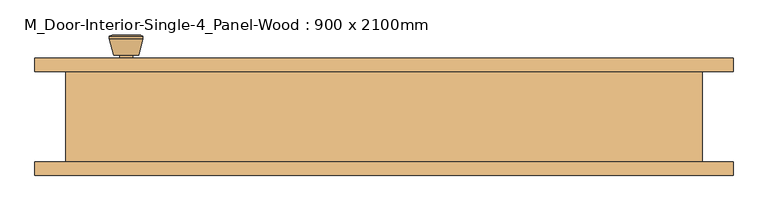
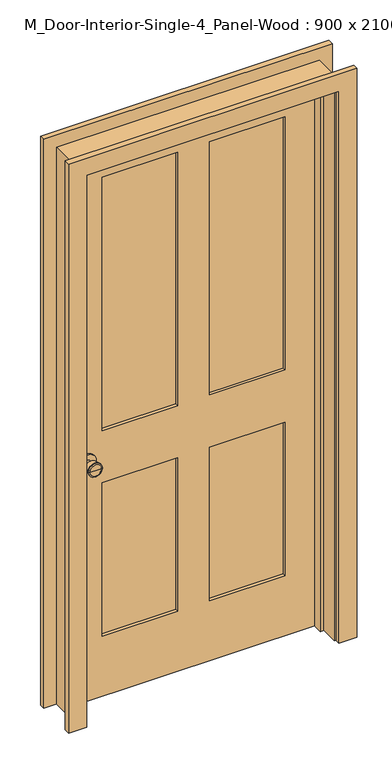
"""IFC4 building model written with IfcOpenShell, lengths in millimetres: door geometry, M_Door-Interior-Single-4_Panel-Wood : 900 x 2100mm."""

from ifc_helpers import new_model, si_unit, point, frame, frame_2d, origin, place, context, project, spatial, polyline, circle_curve, trimmed, segment, composite_curve, outline, extrude, faceted_brep, source, transform, mapped, element, save
from ifc_brep_helpers import plane_surface, cylinder_surface, revolved_surface, advanced_brep


def m_door_interior_single_4_panel_wood_900_x_2100mm_40914eee(model_context):
    return source(origin(), model_context, "Body", "SolidModel", [
        advanced_brep(
        [(-385.0, 23.575, 914.4), (-375.0, 23.575, 914.4), (-395.0, 23.575, 914.4), (-364.5241324, -25.425, 914.4), (-385.0, -25.425, 914.4), (-405.4758676, -25.425, 914.4), (-360.0, -23.5971319, 914.4), (-410.0, -23.5971319, 914.4), (-360.0, -20.1334537, 914.4), (-410.0, -20.1334537, 914.4), (-366.363764, 4.575, 914.4), (-403.636236, 4.575, 914.4), (-375.0, 4.575, 914.4), (-395.0, 4.575, 914.4)],
        [
            (0, 1),
            (1, 2, circle_curve(frame((-385.0, 23.575, 914.4), z_axis=(0.0, 1.0, 0.0), x_axis=(-1.0, 0.0, 0.0)), 10.0)),
            (2, 0),
            (2, 1, circle_curve(frame((-385.0, 23.575, 914.4), z_axis=(0.0, 1.0, 0.0), x_axis=(-1.0, 0.0, 0.0)), 10.0)),
            (3, 4),
            (4, 5),
            (5, 3, circle_curve(frame((-385.0, -25.425, 914.4), z_axis=(0.0, -1.0, 0.0), x_axis=(-1.0, 0.0, 0.0)), 20.4758676)),
            (3, 5, circle_curve(frame((-385.0, -25.425, 914.4), z_axis=(0.0, -1.0, 0.0), x_axis=(-1.0, 0.0, 0.0)), 20.4758676)),
            (6, 3),
            (5, 7),
            (7, 6, circle_curve(frame((-385.0, -23.5971319, 914.4), z_axis=(0.0, -1.0, 0.0), x_axis=(-1.0, 0.0, 0.0)), 25.0)),
            (6, 7, circle_curve(frame((-385.0, -23.5971319, 914.4), z_axis=(0.0, -1.0, 0.0), x_axis=(-1.0, 0.0, 0.0)), 25.0)),
            (8, 6),
            (7, 9),
            (9, 8, circle_curve(frame((-385.0, -20.1334537, 914.4), z_axis=(0.0, -1.0, 0.0), x_axis=(-1.0, 0.0, 0.0)), 25.0)),
            (8, 9, circle_curve(frame((-385.0, -20.1334537, 914.4), z_axis=(0.0, -1.0, 0.0), x_axis=(-1.0, 0.0, 0.0)), 25.0)),
            (10, 8),
            (9, 11),
            (11, 10, circle_curve(frame((-385.0, 4.575, 914.4), z_axis=(0.0, -1.0, 0.0), x_axis=(-1.0, 0.0, 0.0)), 18.636236)),
            (10, 11, circle_curve(frame((-385.0, 4.575, 914.4), z_axis=(0.0, -1.0, 0.0), x_axis=(-1.0, 0.0, 0.0)), 18.636236)),
            (12, 10),
            (11, 13),
            (13, 12, circle_curve(frame((-385.0, 4.575, 914.4), z_axis=(0.0, -1.0, 0.0), x_axis=(-1.0, 0.0, 0.0)), 10.0)),
            (12, 13, circle_curve(frame((-385.0, 4.575, 914.4), z_axis=(0.0, -1.0, 0.0), x_axis=(-1.0, 0.0, 0.0)), 10.0)),
            (1, 12),
            (13, 2),
        ],
        [
            plane_surface(frame((-385.0, 23.575, 914.4), z_axis=(0.0, 1.0, 0.0), x_axis=(-1.0, 0.0, 0.0))),
            plane_surface(frame((-385.0, -25.425, 914.4), z_axis=(0.0, -1.0, 0.0), x_axis=(-1.0, 0.0, 0.0))),
            revolved_surface(polyline([(-405.4758676, -25.425, 914.4), (-410.0, -23.5971319, 914.4)]), (-385.0, 23.575, 914.4), (0.0, 1.0, 0.0)),
            cylinder_surface(frame((-385.0, 23.575, 914.4), z_axis=(0.0, 1.0, 0.0), x_axis=(-1.0, 0.0, 0.0)), 25.0),
            revolved_surface(polyline([(-410.0, -20.1334537, 914.4), (-403.636236, 4.575, 914.4)]), (-385.0, 23.575, 914.4), (0.0, 1.0, 0.0)),
            plane_surface(frame((-385.0, 4.575, 914.4), z_axis=(0.0, 1.0, 0.0), x_axis=(-1.0, 0.0, 0.0))),
            cylinder_surface(frame((-385.0, 23.575, 914.4), z_axis=(0.0, 1.0, 0.0), x_axis=(-1.0, 0.0, 0.0)), 10.0),
        ],
        [
            (0, [[1, 2, 3]]),
            (0, [[-3, 4, -1]]),
            (1, [[5, 6, 7]]),
            (1, [[-6, -5, 8]]),
            (2, [[9, -7, 10, 11]]),
            (2, [[-10, -8, -9, 12]]),
            (3, [[13, -11, 14, 15]]),
            (3, [[-14, -12, -13, 16]]),
            (4, [[17, -15, 18, 19]]),
            (4, [[-18, -16, -17, 20]]),
            (5, [[21, -19, 22, 23]]),
            (5, [[-22, -20, -21, 24]]),
            (6, [[25, -23, 26, -2]]),
            (6, [[-26, -24, -25, -4]]),
        ],
    ),
        extrude(outline(composite_curve([segment(trimmed(circle_curve(frame_2d((914.4, -385.0)), 30.0), [point((914.4, -415.0))], [point((914.4, -355.0))], False, "CARTESIAN"), True, "CONTINUOUS"), segment(trimmed(circle_curve(frame_2d((914.4, -385.0)), 30.0), [point((914.4, -355.0))], [point((914.4, -415.0))], False, "CARTESIAN"), True, "CONTINUOUS")], self_intersect=False)), frame((0.0, 23.575, 0.0), z_axis=(0.0, 1.0, 0.0), x_axis=(0.0, 0.0, 1.0)), (0.0, 0.0, 1.0), 6.0),
        advanced_brep(
        [(-385.0, 70.575, 914.4), (-395.0, 70.575, 914.4), (-375.0, 70.575, 914.4), (-364.5241324, 119.575, 914.4), (-405.4758676, 119.575, 914.4), (-385.0, 119.575, 914.4), (-360.0, 117.7471319, 914.4), (-410.0, 117.7471319, 914.4), (-360.0, 114.2834537, 914.4), (-410.0, 114.2834537, 914.4), (-366.363764, 89.575, 914.4), (-403.636236, 89.575, 914.4), (-375.0, 89.575, 914.4), (-395.0, 89.575, 914.4)],
        [
            (0, 1),
            (1, 2, circle_curve(frame((-385.0, 70.575, 914.4), z_axis=(0.0, -1.0, 0.0), x_axis=(-1.0, 0.0, 0.0)), 10.0)),
            (2, 0),
            (2, 1, circle_curve(frame((-385.0, 70.575, 914.4), z_axis=(0.0, -1.0, 0.0), x_axis=(-1.0, 0.0, 0.0)), 10.0)),
            (3, 4, circle_curve(frame((-385.0, 119.575, 914.4), z_axis=(0.0, 1.0, 0.0), x_axis=(-1.0, 0.0, 0.0)), 20.4758676)),
            (4, 5),
            (5, 3),
            (4, 3, circle_curve(frame((-385.0, 119.575, 914.4), z_axis=(0.0, 1.0, 0.0), x_axis=(-1.0, 0.0, 0.0)), 20.4758676)),
            (6, 7, circle_curve(frame((-385.0, 117.7471319, 914.4), z_axis=(0.0, 1.0, 0.0), x_axis=(-1.0, 0.0, 0.0)), 25.0)),
            (7, 4),
            (3, 6),
            (7, 6, circle_curve(frame((-385.0, 117.7471319, 914.4), z_axis=(0.0, 1.0, 0.0), x_axis=(-1.0, 0.0, 0.0)), 25.0)),
            (8, 9, circle_curve(frame((-385.0, 114.2834537, 914.4), z_axis=(0.0, 1.0, 0.0), x_axis=(-1.0, 0.0, 0.0)), 25.0)),
            (9, 7),
            (6, 8),
            (9, 8, circle_curve(frame((-385.0, 114.2834537, 914.4), z_axis=(0.0, 1.0, 0.0), x_axis=(-1.0, 0.0, 0.0)), 25.0)),
            (10, 11, circle_curve(frame((-385.0, 89.575, 914.4), z_axis=(0.0, 1.0, 0.0), x_axis=(-1.0, 0.0, 0.0)), 18.636236)),
            (11, 9),
            (8, 10),
            (11, 10, circle_curve(frame((-385.0, 89.575, 914.4), z_axis=(0.0, 1.0, 0.0), x_axis=(-1.0, 0.0, 0.0)), 18.636236)),
            (12, 13, circle_curve(frame((-385.0, 89.575, 914.4), z_axis=(0.0, 1.0, 0.0), x_axis=(-1.0, 0.0, 0.0)), 10.0)),
            (13, 11),
            (10, 12),
            (13, 12, circle_curve(frame((-385.0, 89.575, 914.4), z_axis=(0.0, 1.0, 0.0), x_axis=(-1.0, 0.0, 0.0)), 10.0)),
            (1, 13),
            (12, 2),
        ],
        [
            plane_surface(frame((-385.0, 70.575, 914.4), z_axis=(0.0, -1.0, 0.0), x_axis=(-1.0, 0.0, 0.0))),
            plane_surface(frame((-385.0, 119.575, 914.4), z_axis=(0.0, 1.0, 0.0), x_axis=(-1.0, 0.0, 0.0))),
            revolved_surface(polyline([(-405.4758676, 119.575, 914.4), (-410.0, 117.7471319, 914.4)]), (-385.0, 70.575, 914.4), (0.0, -1.0, 0.0)),
            cylinder_surface(frame((-385.0, 70.575, 914.4), z_axis=(0.0, -1.0, 0.0), x_axis=(-1.0, 0.0, 0.0)), 25.0),
            revolved_surface(polyline([(-410.0, 114.2834537, 914.4), (-403.636236, 89.575, 914.4)]), (-385.0, 70.575, 914.4), (0.0, -1.0, 0.0)),
            plane_surface(frame((-385.0, 89.575, 914.4), z_axis=(0.0, -1.0, 0.0), x_axis=(-1.0, 0.0, 0.0))),
            cylinder_surface(frame((-385.0, 70.575, 914.4), z_axis=(0.0, -1.0, 0.0), x_axis=(-1.0, 0.0, 0.0)), 10.0),
        ],
        [
            (0, [[1, 2, 3]]),
            (0, [[-3, 4, -1]]),
            (1, [[5, 6, 7]]),
            (1, [[8, -7, -6]]),
            (2, [[9, 10, -5, 11]]),
            (2, [[12, -11, -8, -10]]),
            (3, [[13, 14, -9, 15]]),
            (3, [[16, -15, -12, -14]]),
            (4, [[17, 18, -13, 19]]),
            (4, [[20, -19, -16, -18]]),
            (5, [[21, 22, -17, 23]]),
            (5, [[24, -23, -20, -22]]),
            (6, [[-2, 25, -21, 26]]),
            (6, [[-4, -26, -24, -25]]),
        ],
    ),
        extrude(outline(composite_curve([segment(trimmed(circle_curve(frame_2d((914.4, -385.0)), 30.0), [point((914.4, -415.0))], [point((914.4, -355.0))], False, "CARTESIAN"), True, "CONTINUOUS"), segment(trimmed(circle_curve(frame_2d((914.4, -385.0)), 30.0), [point((914.4, -355.0))], [point((914.4, -415.0))], False, "CARTESIAN"), True, "CONTINUOUS")], self_intersect=False)), frame((0.0, 64.575, 0.0), z_axis=(0.0, 1.0, 0.0), x_axis=(0.0, 0.0, 1.0)), (0.0, 0.0, 1.0), 6.0),
        extrude(outline(polyline([(330.0, 41.2416667), (57.5, 41.2416667), (57.5, 52.9083333), (330.0, 52.9083333), (330.0, 41.2416667)])), frame((0.0, 0.0, 1014.4), z_axis=(0.0, 0.0, 1.0), x_axis=(1.0, 0.0, 0.0)), (0.0, 0.0, 1.0), 965.6),
        extrude(outline(polyline([(-57.5, 41.2416667), (-330.0, 41.2416667), (-330.0, 52.9083333), (-57.5, 52.9083333), (-57.5, 41.2416667)])), frame((0.0, 0.0, 1014.4), z_axis=(0.0, 0.0, 1.0), x_axis=(1.0, 0.0, 0.0)), (0.0, 0.0, 1.0), 965.6),
        extrude(outline(polyline([(330.0, 41.2416667), (57.5, 41.2416667), (57.5, 52.9083333), (330.0, 52.9083333), (330.0, 41.2416667)])), frame((0.0, 0.0, 230.0), z_axis=(0.0, 0.0, 1.0), x_axis=(1.0, 0.0, 0.0)), (0.0, 0.0, 1.0), 584.4),
        extrude(outline(polyline([(-57.5, 41.2416667), (-330.0, 41.2416667), (-330.0, 52.9083333), (-57.5, 52.9083333), (-57.5, 41.2416667)])), frame((0.0, 0.0, 230.0), z_axis=(0.0, 0.0, 1.0), x_axis=(1.0, 0.0, 0.0)), (0.0, 0.0, 1.0), 584.4),
        extrude(outline(polyline([(2100.0, -450.0), (0.0, -450.0), (0.0, 450.0), (2100.0, 450.0), (2100.0, -450.0)]), holes=[polyline([(1980.0, 57.5), (1980.0, 330.0), (1014.4, 330.0), (1014.4, 57.5), (1980.0, 57.5)]), polyline([(1014.4, -57.5), (1014.4, -330.0), (1980.0, -330.0), (1980.0, -57.5), (1014.4, -57.5)]), polyline([(814.4, 57.5), (814.4, 330.0), (230.0, 330.0), (230.0, 57.5), (814.4, 57.5)]), polyline([(230.0, -57.5), (230.0, -330.0), (814.4, -330.0), (814.4, -57.5), (230.0, -57.5)])]), frame((0.0, 29.575, 0.0), z_axis=(0.0, 1.0, 0.0), x_axis=(0.0, 0.0, 1.0)), (0.0, 0.0, 1.0), 35.0),
        faceted_brep([(475.0, 64.575, 0.0), (475.0, -70.925, 0.0), (450.0, -70.925, 0.0), (450.0, -5.35, 0.0), (437.3, -5.35, 0.0), (437.3, 29.575, 0.0), (450.0, 29.575, 0.0), (450.0, 64.575, 0.0), (475.0, 64.575, 2125.0), (475.0, -70.925, 2125.0), (-475.0, -70.925, 2125.0), (-475.0, -70.925, 0.0), (-450.0, -70.925, 0.0), (-450.0, -70.925, 2100.0), (450.0, -70.925, 2100.0), (450.0, -5.35, 2100.0), (-450.0, -5.35, 2100.0), (-450.0, -5.35, 0.0), (-437.3, -5.35, 0.0), (-437.3, -5.35, 2087.3), (437.3, -5.35, 2087.3), (437.3, 29.575, 2087.3), (-437.3, 29.575, 2087.3), (-437.3, 29.575, 0.0), (-450.0, 29.575, 0.0), (-450.0, 29.575, 2100.0), (450.0, 29.575, 2100.0), (450.0, 64.575, 2100.0), (-450.0, 64.575, 2100.0), (-450.0, 64.575, 0.0), (-475.0, 64.575, 0.0), (-475.0, 64.575, 2125.0)], [[[0, 1, 2, 3, 4, 5, 6, 7]], [[1, 0, 8, 9]], [[2, 1, 9, 10, 11, 12, 13, 14]], [[3, 2, 14, 15]], [[4, 3, 15, 16, 17, 18, 19, 20]], [[5, 4, 20, 21]], [[6, 5, 21, 22, 23, 24, 25, 26]], [[7, 6, 26, 27]], [[0, 7, 27, 28, 29, 30, 31, 8]], [[9, 8, 31, 10]], [[15, 14, 13, 16]], [[21, 20, 19, 22]], [[27, 26, 25, 28]], [[30, 29, 24, 23, 18, 17, 12, 11]], [[10, 31, 30, 11]], [[16, 13, 12, 17]], [[22, 19, 18, 23]], [[28, 25, 24, 29]]]),
        extrude(outline(polyline([(0.0, 456.35), (0.0, 521.35), (2171.35, 521.35), (2171.35, -521.35), (0.0, -521.35), (0.0, -456.35), (2106.35, -456.35), (2106.35, 456.35), (0.0, 456.35)])), frame((0.0, -90.925, 0.0), z_axis=(0.0, 1.0, 0.0), x_axis=(0.0, 0.0, 1.0)), (0.0, 0.0, 1.0), 20.0),
        extrude(outline(polyline([(0.0, 456.35), (0.0, 521.35), (2171.35, 521.35), (2171.35, -521.35), (0.0, -521.35), (0.0, -456.35), (2106.35, -456.35), (2106.35, 456.35), (0.0, 456.35)])), frame((0.0, 64.575, 0.0), z_axis=(0.0, 1.0, 0.0), x_axis=(0.0, 0.0, 1.0)), (0.0, 0.0, 1.0), 20.0),
    ])


if __name__ == "__main__":
    model = new_model("IFC4")
    model_context = context("Model", 3, world=origin())
    ifc_project = project(units=[si_unit("LENGTHUNIT", "METRE", prefix="MILLI")], contexts=[model_context])
    site = spatial("IfcSite", under=ifc_project)
    building = spatial("IfcBuilding", under=site)
    placement = place(None, origin())
    m_door_interior_single_4_panel_wood_900_x_2100mm_shape = m_door_interior_single_4_panel_wood_900_x_2100mm_40914eee(model_context)
    element("IfcDoor", 1, ObjectType="M_Door-Interior-Single-4_Panel-Wood : 900 x 2100mm", at=placement, inside=building, context=model_context, shape_type="MappedRepresentation", body=[
        mapped(m_door_interior_single_4_panel_wood_900_x_2100mm_shape, transform((0.0, 0.0, 0.0), x_axis=(1.0, 0.0, 0.0), y_axis=(0.0, 1.0, 0.0), z_axis=(0.0, 0.0, 1.0))),
    ])
    save(model, "model.ifc")
